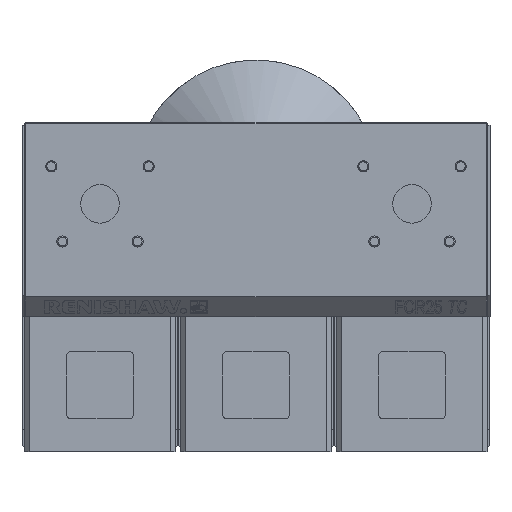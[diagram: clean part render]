
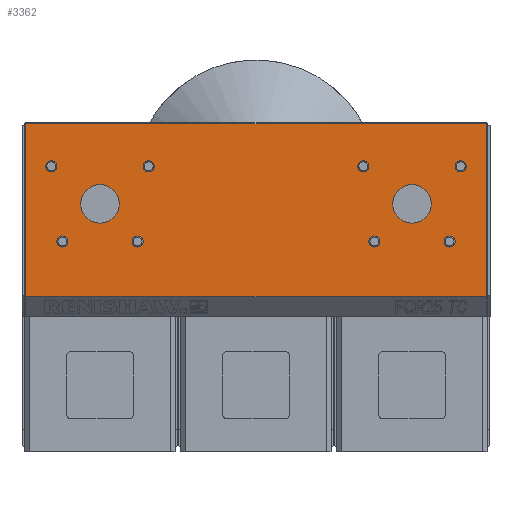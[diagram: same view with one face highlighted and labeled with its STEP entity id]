
A CAD part, top view. The second image highlights one B-rep face of the part: STEP entity #3362.
In plain terms, the highlighted planar face has unit normal (0, 0, 1).
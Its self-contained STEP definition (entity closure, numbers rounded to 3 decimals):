
#2729=FACE_BOUND('',#4697,.T.);
#2730=FACE_BOUND('',#4698,.T.);
#2731=FACE_BOUND('',#4699,.T.);
#2732=FACE_BOUND('',#4700,.T.);
#2733=FACE_BOUND('',#4701,.T.);
#2734=FACE_BOUND('',#4702,.T.);
#2735=FACE_BOUND('',#4703,.T.);
#2736=FACE_BOUND('',#4704,.T.);
#2737=FACE_BOUND('',#4705,.T.);
#2738=FACE_BOUND('',#4706,.T.);
#2739=FACE_BOUND('',#4707,.T.);
#2895=CIRCLE('',#12398,1.25);
#2896=CIRCLE('',#12400,1.25);
#2897=CIRCLE('',#12402,1.25);
#2898=CIRCLE('',#12404,1.25);
#2899=CIRCLE('',#12406,1.25);
#2900=CIRCLE('',#12408,1.25);
#2901=CIRCLE('',#12410,1.25);
#2902=CIRCLE('',#12416,4.35);
#2903=CIRCLE('',#12418,4.35);
#2904=CIRCLE('',#12420,1.25);
#3362=ADVANCED_FACE('',(#2729,#2730,#2731,#2732,#2733,#2734,#2735,#2736,
#2737,#2738,#2739),#3745,.T.);
#3745=PLANE('',#12422);
#4697=EDGE_LOOP('',(#7340));
#4698=EDGE_LOOP('',(#7341));
#4699=EDGE_LOOP('',(#7342));
#4700=EDGE_LOOP('',(#7343));
#4701=EDGE_LOOP('',(#7344));
#4702=EDGE_LOOP('',(#7345));
#4703=EDGE_LOOP('',(#7346));
#4704=EDGE_LOOP('',(#7347,#7348,#7349,#7350));
#4705=EDGE_LOOP('',(#7351));
#4706=EDGE_LOOP('',(#7352));
#4707=EDGE_LOOP('',(#7353));
#7340=ORIENTED_EDGE('',*,*,#9638,.F.);
#7341=ORIENTED_EDGE('',*,*,#9639,.F.);
#7342=ORIENTED_EDGE('',*,*,#9640,.F.);
#7343=ORIENTED_EDGE('',*,*,#9641,.F.);
#7344=ORIENTED_EDGE('',*,*,#9642,.F.);
#7345=ORIENTED_EDGE('',*,*,#9643,.F.);
#7346=ORIENTED_EDGE('',*,*,#9644,.F.);
#7347=ORIENTED_EDGE('',*,*,#9645,.T.);
#7348=ORIENTED_EDGE('',*,*,#9647,.T.);
#7349=ORIENTED_EDGE('',*,*,#9649,.T.);
#7350=ORIENTED_EDGE('',*,*,#9650,.T.);
#7351=ORIENTED_EDGE('',*,*,#9651,.F.);
#7352=ORIENTED_EDGE('',*,*,#9652,.F.);
#7353=ORIENTED_EDGE('',*,*,#9653,.T.);
#8313=VERTEX_POINT('',#18456);
#8317=VERTEX_POINT('',#18474);
#8319=VERTEX_POINT('',#18481);
#8320=VERTEX_POINT('',#18484);
#8321=VERTEX_POINT('',#18487);
#8322=VERTEX_POINT('',#18490);
#8323=VERTEX_POINT('',#18493);
#8324=VERTEX_POINT('',#18496);
#8325=VERTEX_POINT('',#18499);
#8326=VERTEX_POINT('',#18504);
#8327=VERTEX_POINT('',#18508);
#8328=VERTEX_POINT('',#18514);
#8329=VERTEX_POINT('',#18517);
#8330=VERTEX_POINT('',#18520);
#9638=EDGE_CURVE('',#8319,#8319,#2895,.T.);
#9639=EDGE_CURVE('',#8320,#8320,#2896,.T.);
#9640=EDGE_CURVE('',#8321,#8321,#2897,.T.);
#9641=EDGE_CURVE('',#8322,#8322,#2898,.T.);
#9642=EDGE_CURVE('',#8323,#8323,#2899,.T.);
#9643=EDGE_CURVE('',#8324,#8324,#2900,.T.);
#9644=EDGE_CURVE('',#8325,#8325,#2901,.T.);
#9645=EDGE_CURVE('',#8317,#8313,#10715,.T.);
#9647=EDGE_CURVE('',#8313,#8326,#10717,.T.);
#9649=EDGE_CURVE('',#8326,#8327,#10719,.T.);
#9650=EDGE_CURVE('',#8327,#8317,#10720,.T.);
#9651=EDGE_CURVE('',#8328,#8328,#2902,.T.);
#9652=EDGE_CURVE('',#8329,#8329,#2903,.T.);
#9653=EDGE_CURVE('',#8330,#8330,#2904,.T.);
#10715=LINE('',#18501,#11782);
#10717=LINE('',#18505,#11784);
#10719=LINE('',#18509,#11786);
#10720=LINE('',#18511,#11787);
#11782=VECTOR('',#14732,1.);
#11784=VECTOR('',#14736,1.);
#11786=VECTOR('',#14740,1.);
#11787=VECTOR('',#14743,1.);
#12398=AXIS2_PLACEMENT_3D('',#18480,#14704,#14705);
#12400=AXIS2_PLACEMENT_3D('',#18483,#14708,#14709);
#12402=AXIS2_PLACEMENT_3D('',#18486,#14712,#14713);
#12404=AXIS2_PLACEMENT_3D('',#18489,#14716,#14717);
#12406=AXIS2_PLACEMENT_3D('',#18492,#14720,#14721);
#12408=AXIS2_PLACEMENT_3D('',#18495,#14724,#14725);
#12410=AXIS2_PLACEMENT_3D('',#18498,#14728,#14729);
#12416=AXIS2_PLACEMENT_3D('',#18513,#14746,#14747);
#12418=AXIS2_PLACEMENT_3D('',#18516,#14750,#14751);
#12420=AXIS2_PLACEMENT_3D('',#18519,#14754,#14755);
#12422=AXIS2_PLACEMENT_3D('',#18522,#14758,#14759);
#14704=DIRECTION('',(0.,0.,1.));
#14705=DIRECTION('',(0.,-1.,0.));
#14708=DIRECTION('',(0.,0.,1.));
#14709=DIRECTION('',(0.,-1.,0.));
#14712=DIRECTION('',(0.,0.,1.));
#14713=DIRECTION('',(0.,-1.,0.));
#14716=DIRECTION('',(0.,0.,1.));
#14717=DIRECTION('',(0.,-1.,0.));
#14720=DIRECTION('',(0.,0.,1.));
#14721=DIRECTION('',(0.,-1.,0.));
#14724=DIRECTION('',(0.,0.,1.));
#14725=DIRECTION('',(0.,-1.,0.));
#14728=DIRECTION('',(0.,0.,1.));
#14729=DIRECTION('',(0.,-1.,0.));
#14732=DIRECTION('',(1.,0.,0.));
#14736=DIRECTION('',(0.,1.,0.));
#14740=DIRECTION('',(-1.,0.,0.));
#14743=DIRECTION('',(0.,-1.,0.));
#14746=DIRECTION('',(0.,0.,1.));
#14747=DIRECTION('',(0.,-1.,0.));
#14750=DIRECTION('',(0.,0.,1.));
#14751=DIRECTION('',(0.,-1.,0.));
#14754=DIRECTION('',(0.,0.,-1.));
#14755=DIRECTION('',(0.,-1.,0.));
#14758=DIRECTION('',(0.,0.,1.));
#14759=DIRECTION('',(0.,-1.,0.));
#18456=CARTESIAN_POINT('',(87.225,21.75,18.21));
#18474=CARTESIAN_POINT('',(-16.725,21.75,18.21));
#18480=CARTESIAN_POINT('',(-8.5,34.25,18.21));
#18481=CARTESIAN_POINT('',(-8.5,33.,18.21));
#18483=CARTESIAN_POINT('',(-11.,51.25,18.21));
#18484=CARTESIAN_POINT('',(-11.,50.,18.21));
#18486=CARTESIAN_POINT('',(11.,51.25,18.21));
#18487=CARTESIAN_POINT('',(11.,50.,18.21));
#18489=CARTESIAN_POINT('',(8.5,34.25,18.21));
#18490=CARTESIAN_POINT('',(8.5,33.,18.21));
#18492=CARTESIAN_POINT('',(62.,34.25,18.21));
#18493=CARTESIAN_POINT('',(62.,33.,18.21));
#18495=CARTESIAN_POINT('',(79.,34.25,18.21));
#18496=CARTESIAN_POINT('',(79.,33.,18.21));
#18498=CARTESIAN_POINT('',(59.5,51.25,18.21));
#18499=CARTESIAN_POINT('',(59.5,50.,18.21));
#18501=CARTESIAN_POINT('',(35.25,21.75,18.21));
#18504=CARTESIAN_POINT('',(87.225,60.85,18.21));
#18505=CARTESIAN_POINT('',(87.225,60.85,18.21));
#18508=CARTESIAN_POINT('',(-16.725,60.85,18.21));
#18509=CARTESIAN_POINT('',(35.25,60.85,18.21));
#18511=CARTESIAN_POINT('',(-16.725,21.75,18.21));
#18513=CARTESIAN_POINT('',(0.,42.75,18.21));
#18514=CARTESIAN_POINT('',(0.,38.4,18.21));
#18516=CARTESIAN_POINT('',(70.5,42.75,18.21));
#18517=CARTESIAN_POINT('',(70.5,38.4,18.21));
#18519=CARTESIAN_POINT('',(81.5,51.25,18.21));
#18520=CARTESIAN_POINT('',(81.5,50.,18.21));
#18522=CARTESIAN_POINT('',(35.25,39.25,18.21));
